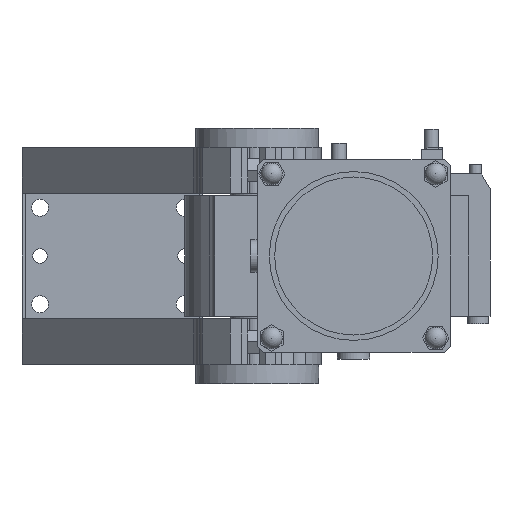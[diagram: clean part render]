
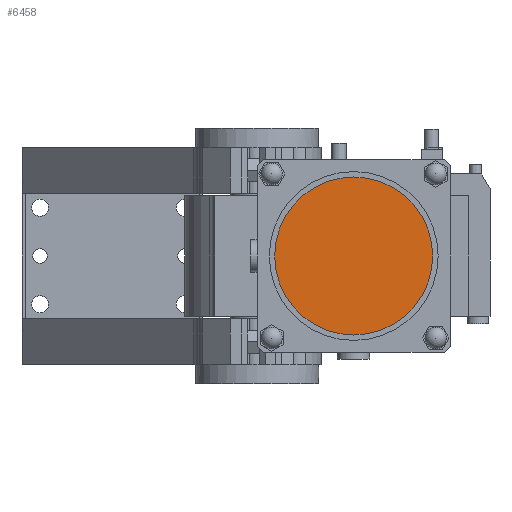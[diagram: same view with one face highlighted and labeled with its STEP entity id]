
A CAD part, front view. The second image highlights one B-rep face of the part: STEP entity #6458.
In plain terms, the highlighted planar face has unit normal (0, -1, 0).
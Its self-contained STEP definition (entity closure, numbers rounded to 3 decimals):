
#1504=PLANE('',#7145);
#2014=FACE_OUTER_BOUND('',#2506,.T.);
#2506=EDGE_LOOP('',(#5220));
#2837=CIRCLE('',#7056,65.5);
#3161=VERTEX_POINT('',#9941);
#3833=EDGE_CURVE('',#3161,#3161,#2837,.T.);
#5220=ORIENTED_EDGE('',*,*,#3833,.T.);
#6458=ADVANCED_FACE('',(#2014),#1504,.T.);
#7056=AXIS2_PLACEMENT_3D('',#9942,#8058,#8059);
#7145=AXIS2_PLACEMENT_3D('',#10254,#8356,#8357);
#8058=DIRECTION('center_axis',(0.,-1.,0.));
#8059=DIRECTION('ref_axis',(0.,0.,-1.));
#8356=DIRECTION('center_axis',(0.,-1.,0.));
#8357=DIRECTION('ref_axis',(0.,0.,-1.));
#9941=CARTESIAN_POINT('',(80.,-612.5,65.5));
#9942=CARTESIAN_POINT('Origin',(80.,-612.5,0.));
#10254=CARTESIAN_POINT('Origin',(80.,-612.5,0.));
